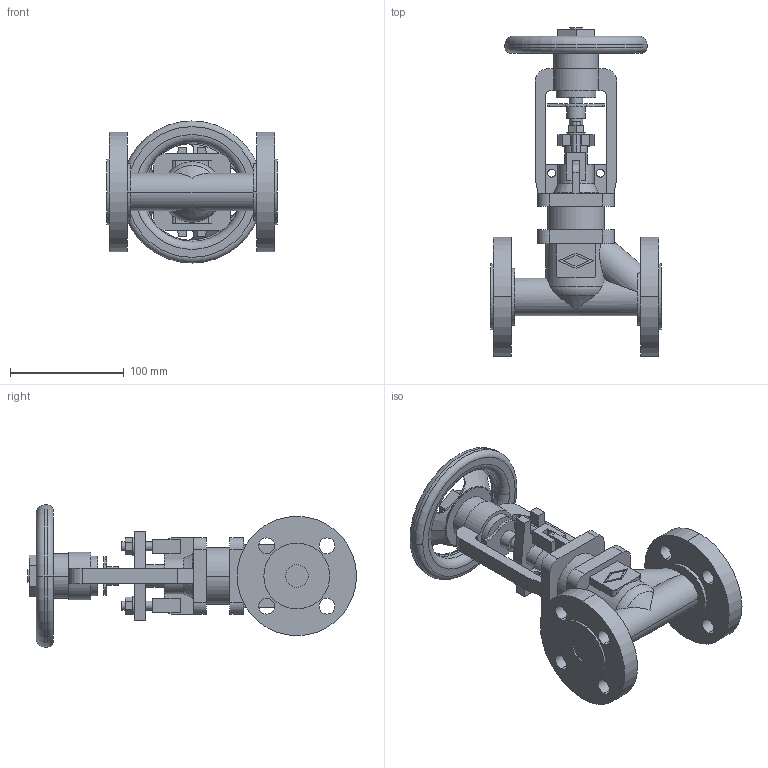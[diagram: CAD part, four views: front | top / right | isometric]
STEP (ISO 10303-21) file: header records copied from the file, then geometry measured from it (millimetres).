
FILE_DESCRIPTION(('OneSpaceDesigner STEP Export'),'2;1');
FILE_NAME('c000004279.stp','2010-05-05T10:04:04',(''),(''),'OneSpace Designer STEP processor for AP214 (Solid Model)','OneSpace Modeling 15.50B 03-Nov-2007 (C) CoCreate Software GmbH','');
FILE_SCHEMA(('AUTOMOTIVE_DESIGN { 1 0 10303 214 1 1 1 1 }'));
Length unit declared in the file: millimetre
Products named in the file (1): 1
Bounding box: 150 x 289.5 x 125 mm (x, y, z)
Volume: 888348.7 mm3; surface area: 154790 mm2
Topology: 1 solids, 1 shells, 292 faces, 785 edges, 518 vertices
Faces by surface type: plane 145, cylinder 119, torus 16, cone 12
Entity records: 11586 total; most frequent: CARTESIAN_POINT 2218, ORIENTED_EDGE 1570, DIRECTION 1323, EDGE_CURVE 785, VERTEX_POINT 518, AXIS2_PLACEMENT_3D 446, VECTOR 431, LINE 431
